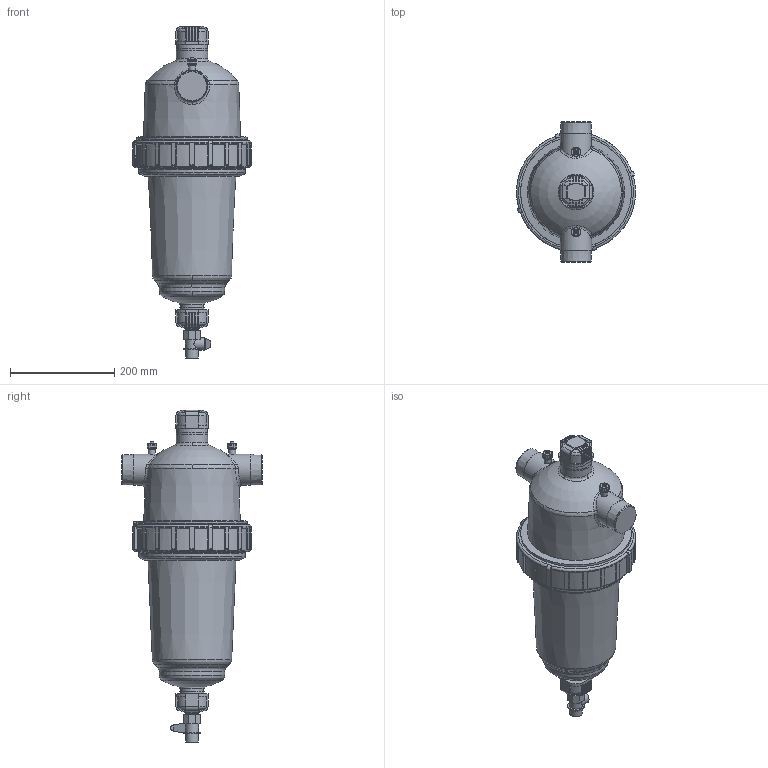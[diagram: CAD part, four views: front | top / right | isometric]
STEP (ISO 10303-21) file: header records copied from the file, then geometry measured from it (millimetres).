
FILE_DESCRIPTION( ( 'Unknown' ), '1' );
FILE_NAME( 'M:/Users/Roy/Dummy/2.0 T SUPER FILTER_2.stp', 'Unknown', ( 'Unknown' ), ( 'Unknown' ), 'PSStep 10.0', 'Unknown', ' ' );
FILE_SCHEMA( ( 'automotive_design' ) );
Length unit declared in the file: millimetre
Products named in the file (1): 1
Bounding box: 228 x 270 x 636.15 mm (x, y, z)
Volume: 10963468.8 mm3; surface area: 542405.1 mm2
Topology: 1 solids, 2 shells, 945 faces, 2587 edges, 1660 vertices
Faces by surface type: plane 366, cylinder 362, bspline 83, torus 53, cone 34, sphere 33, revolution 14
Full cylindrical faces by diameter (mm): 2.1 x2, 3 x2, 3.5 x1, 6 x1, 6.8 x2, 7 x1, 8.96 x1, 11.45 x2, 13.157 x2, 13.16 x2, 17.8 x1, 18 x2, 19 x1, 23.2 x1, 24 x7, 24.2 x1, 26.44 x1, 37.5 x1, 44 x2, 45 x11, 45.7 x9, 48.5 x1, 49.1 x1, 55.8 x2, 59.614 x1, 60 x3, 126 x1, 173 x1, 186 x3, 188 x1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
Entity records: 61738 total; most frequent: CARTESIAN_POINT 33077, ORIENTED_EDGE 4716, DIRECTION 4087, EDGE_CURVE 2358, AXIS2_PLACEMENT_3D 1616, VERTEX_POINT 1548, EDGE_LOOP 1041, FACE_OUTER_BOUND 967
